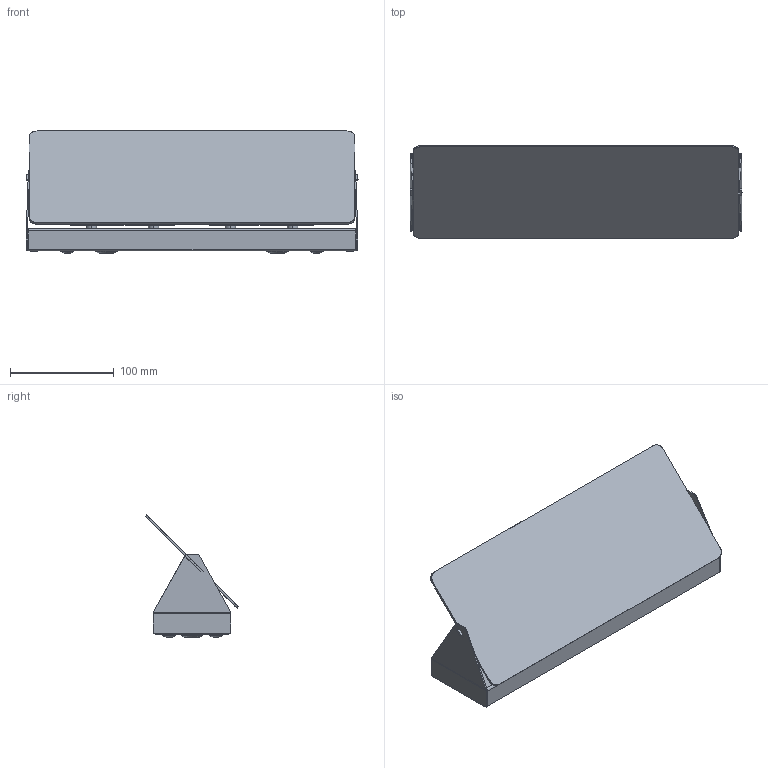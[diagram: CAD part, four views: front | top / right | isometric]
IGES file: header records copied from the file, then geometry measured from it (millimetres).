
Start section: SolidWorks IGES file using analytic representation for surfaces
Global section: file name: C:\Users\tungari.NEMOLIGHTING\Desktop\3D\WALL\Nuova cartella\3D_APPLIQUE_A_VOLET_PIVOTANTE_PLIE_R7s\DEF\3D_APPLIQUE_A_VOLET_PIVOTANT_DOUBLE_R7s.IGS; native system: SolidWorks 2016; preprocessor: SolidWorks 2016; author: tungari; date: 180323.105537; units: millimetre
Bounding box: 320 x 89.8 x 117.6 mm (x, y, z)
Surface area: 302083.9 mm2 (no closed solid volume)
Topology: 0 solids, 0 shells, 344 faces, 3546 edges, 3546 vertices
Faces by surface type: bspline 219, revolution 125
